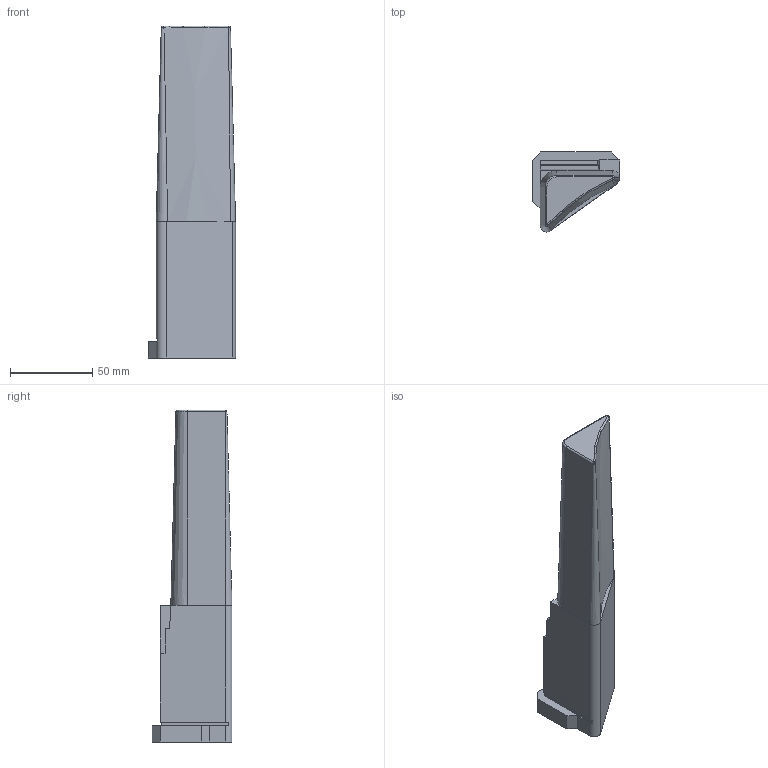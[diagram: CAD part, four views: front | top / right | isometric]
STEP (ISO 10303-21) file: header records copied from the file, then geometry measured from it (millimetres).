
FILE_DESCRIPTION(('STEP AP203'), '1');
FILE_NAME('17 Âñòàâêà', '', ('UNSPECIFIED'), ('UNSPECIFIED'), 'C3D Converter', 'C3D Toolkit', '');
FILE_SCHEMA(('CONFIG_CONTROL_DESIGN'));
Length unit declared in the file: millimetre
Products named in the file (1): ПФН 295 106/17
Bounding box: 53 x 48.69 x 202.1 mm (x, y, z)
Volume: 217173.1 mm3; surface area: 32500.7 mm2
Topology: 1 solids, 1 shells, 40 faces, 99 edges, 60 vertices
Faces by surface type: plane 26, cone 5, cylinder 4, torus 4, bspline 1
Entity records: 1988 total; most frequent: CARTESIAN_POINT 680, DIRECTION 201, ORIENTED_EDGE 196, EDGE_CURVE 98, LINE 71, VECTOR 71, AXIS2_PLACEMENT_3D 65, VERTEX_POINT 60
